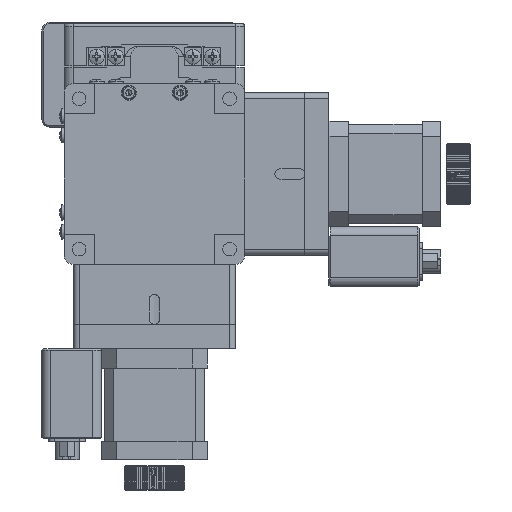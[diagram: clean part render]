
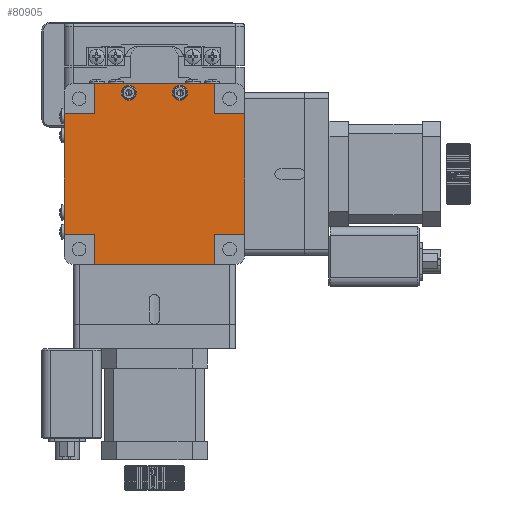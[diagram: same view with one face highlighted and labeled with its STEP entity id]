
A CAD part, front view. The second image highlights one B-rep face of the part: STEP entity #80905.
In plain terms, the highlighted planar face has unit normal (0, -1, 0).
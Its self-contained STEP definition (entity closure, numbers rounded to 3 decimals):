
#1473 = VECTOR ( 'NONE', #31544, 1000. ) ;
#1690 = EDGE_CURVE ( 'NONE', #17770, #13334, #81411, .T. ) ;
#4320 = VERTEX_POINT ( 'NONE', #35339 ) ;
#4395 = CARTESIAN_POINT ( 'NONE',  ( 18.269, 59.915, 224.224 ) ) ;
#4766 = CARTESIAN_POINT ( 'NONE',  ( -10.231, 59.915, 174.724 ) ) ;
#4893 = VECTOR ( 'NONE', #50738, 1000. ) ;
#5014 = VERTEX_POINT ( 'NONE', #23013 ) ;
#5566 = EDGE_CURVE ( 'NONE', #29296, #17770, #85812, .T. ) ;
#8417 = EDGE_CURVE ( 'NONE', #71179, #50672, #35406, .T. ) ;
#10604 = CARTESIAN_POINT ( 'NONE',  ( 1.269, 59.915, 221.724 ) ) ;
#12214 = CARTESIAN_POINT ( 'NONE',  ( 29.769, 59.915, 214.724 ) ) ;
#12241 = CARTESIAN_POINT ( 'NONE',  ( -10.231, 59.915, 214.724 ) ) ;
#12931 = EDGE_CURVE ( 'NONE', #71475, #37005, #46590, .T. ) ;
#13047 = FACE_BOUND ( 'NONE', #25337, .T. ) ;
#13334 = VERTEX_POINT ( 'NONE', #15273 ) ;
#13411 = AXIS2_PLACEMENT_3D ( 'NONE', #20241, #67862, #27103 ) ;
#14585 = VERTEX_POINT ( 'NONE', #4395 ) ;
#15273 = CARTESIAN_POINT ( 'NONE',  ( -10.231, 59.915, 164.724 ) ) ;
#16264 = ORIENTED_EDGE ( 'NONE', *, *, #1690, .T. ) ;
#16612 = VECTOR ( 'NONE', #74459, 1000. ) ;
#17301 = VECTOR ( 'NONE', #68479, 1000. ) ;
#17474 = DIRECTION ( 'NONE',  ( 0., 0., -1. ) ) ;
#17770 = VERTEX_POINT ( 'NONE', #87181 ) ;
#17936 = VECTOR ( 'NONE', #62241, 1000. ) ;
#18027 = CARTESIAN_POINT ( 'NONE',  ( 1.269, 59.915, 221.724 ) ) ;
#18273 = CARTESIAN_POINT ( 'NONE',  ( 1.269, 59.915, 224.224 ) ) ;
#18507 = CARTESIAN_POINT ( 'NONE',  ( 29.769, 59.915, 214.724 ) ) ;
#19462 = LINE ( 'NONE', #85025, #35458 ) ;
#20241 = CARTESIAN_POINT ( 'NONE',  ( 18.269, 59.915, 221.724 ) ) ;
#21108 = DIRECTION ( 'NONE',  ( 0., -1., 0. ) ) ;
#21732 = CARTESIAN_POINT ( 'NONE',  ( 18.269, 59.915, 221.724 ) ) ;
#23013 = CARTESIAN_POINT ( 'NONE',  ( 39.769, 59.915, 174.724 ) ) ;
#23193 = ORIENTED_EDGE ( 'NONE', *, *, #26894, .T. ) ;
#24012 = VECTOR ( 'NONE', #47539, 1000. ) ;
#24049 = CARTESIAN_POINT ( 'NONE',  ( -20.231, 59.915, 174.724 ) ) ;
#24540 = ORIENTED_EDGE ( 'NONE', *, *, #37394, .T. ) ;
#24911 = DIRECTION ( 'NONE',  ( 0., 0., -1. ) ) ;
#25141 = EDGE_CURVE ( 'NONE', #37005, #71475, #67963, .T. ) ;
#25337 = EDGE_LOOP ( 'NONE', ( #84890, #67918 ) ) ;
#25345 = CARTESIAN_POINT ( 'NONE',  ( 29.769, 59.915, 174.724 ) ) ;
#26010 = LINE ( 'NONE', #46911, #62204 ) ;
#26140 = LINE ( 'NONE', #88281, #24012 ) ;
#26305 = CARTESIAN_POINT ( 'NONE',  ( -10.231, 59.915, 224.724 ) ) ;
#26894 = EDGE_CURVE ( 'NONE', #54025, #46763, #26140, .T. ) ;
#27068 = AXIS2_PLACEMENT_3D ( 'NONE', #82179, #21108, #68768 ) ;
#27099 = VERTEX_POINT ( 'NONE', #76960 ) ;
#27103 = DIRECTION ( 'NONE',  ( 0., 0., -1. ) ) ;
#28578 = DIRECTION ( 'NONE',  ( 0., 0., -1. ) ) ;
#29296 = VERTEX_POINT ( 'NONE', #36768 ) ;
#31544 = DIRECTION ( 'NONE',  ( 0., 0., 1. ) ) ;
#33462 = VERTEX_POINT ( 'NONE', #12241 ) ;
#33666 = EDGE_CURVE ( 'NONE', #4320, #72516, #70127, .T. ) ;
#34567 = CARTESIAN_POINT ( 'NONE',  ( -10.231, 59.915, 224.724 ) ) ;
#34865 = CARTESIAN_POINT ( 'NONE',  ( 39.769, 59.915, 214.724 ) ) ;
#35339 = CARTESIAN_POINT ( 'NONE',  ( 39.769, 59.915, 214.724 ) ) ;
#35406 = LINE ( 'NONE', #34567, #17301 ) ;
#35458 = VECTOR ( 'NONE', #37389, 1000. ) ;
#35463 = AXIS2_PLACEMENT_3D ( 'NONE', #18027, #65673, #24911 ) ;
#35582 = ORIENTED_EDGE ( 'NONE', *, *, #25141, .F. ) ;
#36535 = EDGE_CURVE ( 'NONE', #14585, #27099, #47473, .T. ) ;
#36768 = CARTESIAN_POINT ( 'NONE',  ( -20.231, 59.915, 174.724 ) ) ;
#37005 = VERTEX_POINT ( 'NONE', #75571 ) ;
#37389 = DIRECTION ( 'NONE',  ( -1., 0., 0. ) ) ;
#37394 = EDGE_CURVE ( 'NONE', #46763, #5014, #26010, .T. ) ;
#39061 = VERTEX_POINT ( 'NONE', #87307 ) ;
#39829 = LINE ( 'NONE', #52062, #1473 ) ;
#40836 = ORIENTED_EDGE ( 'NONE', *, *, #33666, .T. ) ;
#41125 = ORIENTED_EDGE ( 'NONE', *, *, #5566, .T. ) ;
#41254 = CARTESIAN_POINT ( 'NONE',  ( 29.769, 59.915, 224.724 ) ) ;
#41880 = EDGE_CURVE ( 'NONE', #27099, #14585, #65207, .T. ) ;
#42967 = ORIENTED_EDGE ( 'NONE', *, *, #70237, .T. ) ;
#43435 = VECTOR ( 'NONE', #87702, 1000. ) ;
#43877 = CARTESIAN_POINT ( 'NONE',  ( -10.231, 59.915, 224.724 ) ) ;
#46590 = CIRCLE ( 'NONE', #35463, 2.5 ) ;
#46763 = VERTEX_POINT ( 'NONE', #25345 ) ;
#46911 = CARTESIAN_POINT ( 'NONE',  ( 29.769, 59.915, 174.724 ) ) ;
#46936 = CARTESIAN_POINT ( 'NONE',  ( -10.231, 59.915, 164.724 ) ) ;
#47473 = CIRCLE ( 'NONE', #13411, 2.5 ) ;
#47539 = DIRECTION ( 'NONE',  ( 0., 0., 1. ) ) ;
#49351 = FACE_OUTER_BOUND ( 'NONE', #64810, .T. ) ;
#49611 = VECTOR ( 'NONE', #57997, 1000. ) ;
#50672 = VERTEX_POINT ( 'NONE', #26305 ) ;
#50738 = DIRECTION ( 'NONE',  ( 0., 0., -1. ) ) ;
#52062 = CARTESIAN_POINT ( 'NONE',  ( 39.769, 59.915, 174.724 ) ) ;
#52371 = DIRECTION ( 'NONE',  ( 0., 0., -1. ) ) ;
#52852 = LINE ( 'NONE', #74179, #16612 ) ;
#52896 = ORIENTED_EDGE ( 'NONE', *, *, #69001, .T. ) ;
#53105 = AXIS2_PLACEMENT_3D ( 'NONE', #21732, #69357, #28578 ) ;
#54025 = VERTEX_POINT ( 'NONE', #76067 ) ;
#57913 = LINE ( 'NONE', #18507, #60048 ) ;
#57997 = DIRECTION ( 'NONE',  ( 1., 0., 0. ) ) ;
#58287 = DIRECTION ( 'NONE',  ( 0., -1., 0. ) ) ;
#59224 = EDGE_LOOP ( 'NONE', ( #35582, #81305 ) ) ;
#59674 = AXIS2_PLACEMENT_3D ( 'NONE', #10604, #58287, #17474 ) ;
#60048 = VECTOR ( 'NONE', #66139, 1000. ) ;
#61319 = LINE ( 'NONE', #43877, #4893 ) ;
#61920 = PLANE ( 'NONE',  #27068 ) ;
#62204 = VECTOR ( 'NONE', #80846, 1000. ) ;
#62241 = DIRECTION ( 'NONE',  ( -1., 0., 0. ) ) ;
#62894 = ORIENTED_EDGE ( 'NONE', *, *, #66673, .T. ) ;
#63275 = VECTOR ( 'NONE', #52371, 1000. ) ;
#64810 = EDGE_LOOP ( 'NONE', ( #70629, #52896, #62894, #71581, #41125, #16264, #82992, #23193, #24540, #68194, #40836, #42967 ) ) ;
#65207 = CIRCLE ( 'NONE', #53105, 2.5 ) ;
#65300 = FACE_BOUND ( 'NONE', #59224, .T. ) ;
#65673 = DIRECTION ( 'NONE',  ( 0., -1., 0. ) ) ;
#66139 = DIRECTION ( 'NONE',  ( 0., 0., 1. ) ) ;
#66673 = EDGE_CURVE ( 'NONE', #33462, #39061, #19462, .T. ) ;
#67862 = DIRECTION ( 'NONE',  ( 0., -1., 0. ) ) ;
#67918 = ORIENTED_EDGE ( 'NONE', *, *, #36535, .F. ) ;
#67963 = CIRCLE ( 'NONE', #59674, 2.5 ) ;
#68194 = ORIENTED_EDGE ( 'NONE', *, *, #80322, .T. ) ;
#68479 = DIRECTION ( 'NONE',  ( -1., 0., 0. ) ) ;
#68768 = DIRECTION ( 'NONE',  ( 0., 0., -1. ) ) ;
#69001 = EDGE_CURVE ( 'NONE', #50672, #33462, #61319, .T. ) ;
#69357 = DIRECTION ( 'NONE',  ( 0., -1., 0. ) ) ;
#70127 = LINE ( 'NONE', #34865, #17936 ) ;
#70237 = EDGE_CURVE ( 'NONE', #72516, #71179, #57913, .T. ) ;
#70629 = ORIENTED_EDGE ( 'NONE', *, *, #8417, .T. ) ;
#71179 = VERTEX_POINT ( 'NONE', #41254 ) ;
#71475 = VERTEX_POINT ( 'NONE', #18273 ) ;
#71581 = ORIENTED_EDGE ( 'NONE', *, *, #85741, .T. ) ;
#72516 = VERTEX_POINT ( 'NONE', #12214 ) ;
#74179 = CARTESIAN_POINT ( 'NONE',  ( -20.231, 59.915, 214.724 ) ) ;
#74459 = DIRECTION ( 'NONE',  ( 0., 0., -1. ) ) ;
#75571 = CARTESIAN_POINT ( 'NONE',  ( 1.269, 59.915, 219.224 ) ) ;
#76067 = CARTESIAN_POINT ( 'NONE',  ( 29.769, 59.915, 164.724 ) ) ;
#76960 = CARTESIAN_POINT ( 'NONE',  ( 18.269, 59.915, 219.224 ) ) ;
#80322 = EDGE_CURVE ( 'NONE', #5014, #4320, #39829, .T. ) ;
#80846 = DIRECTION ( 'NONE',  ( 1., 0., 0. ) ) ;
#80905 = ADVANCED_FACE ( 'NONE', ( #65300, #13047, #49351 ), #61920, .T. ) ;
#81305 = ORIENTED_EDGE ( 'NONE', *, *, #12931, .F. ) ;
#81411 = LINE ( 'NONE', #4766, #63275 ) ;
#82179 = CARTESIAN_POINT ( 'NONE',  ( 29.769, 59.915, 224.724 ) ) ;
#82992 = ORIENTED_EDGE ( 'NONE', *, *, #86784, .T. ) ;
#84890 = ORIENTED_EDGE ( 'NONE', *, *, #41880, .F. ) ;
#85025 = CARTESIAN_POINT ( 'NONE',  ( -10.231, 59.915, 214.724 ) ) ;
#85741 = EDGE_CURVE ( 'NONE', #39061, #29296, #52852, .T. ) ;
#85812 = LINE ( 'NONE', #24049, #49611 ) ;
#86038 = LINE ( 'NONE', #46936, #43435 ) ;
#86784 = EDGE_CURVE ( 'NONE', #13334, #54025, #86038, .T. ) ;
#87181 = CARTESIAN_POINT ( 'NONE',  ( -10.231, 59.915, 174.724 ) ) ;
#87307 = CARTESIAN_POINT ( 'NONE',  ( -20.231, 59.915, 214.724 ) ) ;
#87702 = DIRECTION ( 'NONE',  ( 1., 0., 0. ) ) ;
#88281 = CARTESIAN_POINT ( 'NONE',  ( 29.769, 59.915, 164.724 ) ) ;
